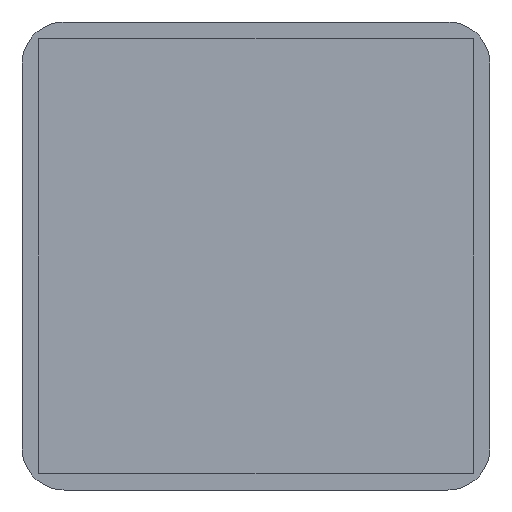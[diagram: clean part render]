
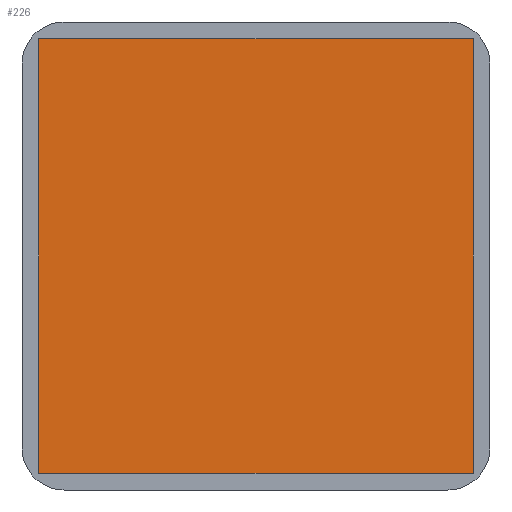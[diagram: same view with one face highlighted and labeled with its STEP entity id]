
A CAD part, front view. The second image highlights one B-rep face of the part: STEP entity #226.
In plain terms, the highlighted planar face has unit normal (0, -1, 0).
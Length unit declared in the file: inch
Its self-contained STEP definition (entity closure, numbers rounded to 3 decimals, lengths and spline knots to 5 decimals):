
#226 = ADVANCED_FACE ( 'NONE', ( #1518 ), #2316, .F. ) ;
#243 = DIRECTION ( 'NONE',  ( -1., 0., 0. ) ) ;
#260 = DIRECTION ( 'NONE',  ( 0., 0., 1. ) ) ;
#417 = CARTESIAN_POINT ( 'NONE',  ( 0.41339, -0.005, -0.41339 ) ) ;
#451 = AXIS2_PLACEMENT_3D ( 'NONE', #1838, #1789, #2296 ) ;
#748 = DIRECTION ( 'NONE',  ( 1., 0., 0. ) ) ;
#777 = EDGE_CURVE ( 'NONE', #895, #2619, #1348, .T. ) ;
#895 = VERTEX_POINT ( 'NONE', #3047 ) ;
#1062 = ORIENTED_EDGE ( 'NONE', *, *, #3337, .F. ) ;
#1245 = LINE ( 'NONE', #3398, #3346 ) ;
#1348 = LINE ( 'NONE', #2133, #2427 ) ;
#1430 = VERTEX_POINT ( 'NONE', #1547 ) ;
#1480 = DIRECTION ( 'NONE',  ( 0., 0., -1. ) ) ;
#1518 = FACE_OUTER_BOUND ( 'NONE', #3160, .T. ) ;
#1547 = CARTESIAN_POINT ( 'NONE',  ( 0.41339, -0.005, 0.41339 ) ) ;
#1691 = CARTESIAN_POINT ( 'NONE',  ( -0.41339, -0.005, 0.41339 ) ) ;
#1789 = DIRECTION ( 'NONE',  ( 0., 1., 0. ) ) ;
#1815 = CARTESIAN_POINT ( 'NONE',  ( -0.41339, -0.005, -0.41339 ) ) ;
#1838 = CARTESIAN_POINT ( 'NONE',  ( -0.41339, -0.005, 0.41339 ) ) ;
#1853 = LINE ( 'NONE', #1815, #2586 ) ;
#1932 = CARTESIAN_POINT ( 'NONE',  ( 0.41339, -0.005, -0.41339 ) ) ;
#2133 = CARTESIAN_POINT ( 'NONE',  ( -0.41339, -0.005, -0.41339 ) ) ;
#2140 = ORIENTED_EDGE ( 'NONE', *, *, #777, .F. ) ;
#2259 = ORIENTED_EDGE ( 'NONE', *, *, #3205, .F. ) ;
#2296 = DIRECTION ( 'NONE',  ( 0., 0., 1. ) ) ;
#2316 = PLANE ( 'NONE',  #451 ) ;
#2427 = VECTOR ( 'NONE', #260, 39.37008 ) ;
#2510 = LINE ( 'NONE', #417, #3202 ) ;
#2572 = VERTEX_POINT ( 'NONE', #1932 ) ;
#2586 = VECTOR ( 'NONE', #243, 39.37008 ) ;
#2619 = VERTEX_POINT ( 'NONE', #1691 ) ;
#3047 = CARTESIAN_POINT ( 'NONE',  ( -0.41339, -0.005, -0.41339 ) ) ;
#3160 = EDGE_LOOP ( 'NONE', ( #2140, #2259, #1062, #3290 ) ) ;
#3202 = VECTOR ( 'NONE', #1480, 39.37008 ) ;
#3205 = EDGE_CURVE ( 'NONE', #2572, #895, #1853, .T. ) ;
#3290 = ORIENTED_EDGE ( 'NONE', *, *, #3354, .F. ) ;
#3337 = EDGE_CURVE ( 'NONE', #1430, #2572, #2510, .T. ) ;
#3346 = VECTOR ( 'NONE', #748, 39.37008 ) ;
#3354 = EDGE_CURVE ( 'NONE', #2619, #1430, #1245, .T. ) ;
#3398 = CARTESIAN_POINT ( 'NONE',  ( -0.41339, -0.005, 0.41339 ) ) ;
